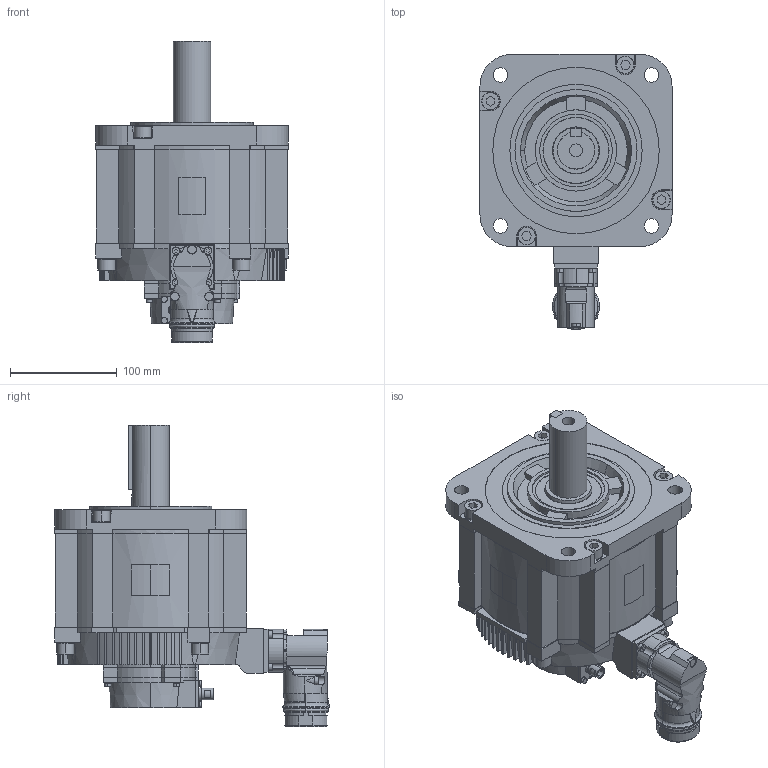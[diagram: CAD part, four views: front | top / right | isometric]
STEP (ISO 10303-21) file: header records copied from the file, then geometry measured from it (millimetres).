
FILE_DESCRIPTION (( 'STEP AP203' ), '1' );
FILE_NAME ('sgm7g_44d_r6f.STEP', '2017-06-13T02:59:55', ( '匠エンジニアリング山之内' ), ( 'TAKUMI-Engniaring' ), 'SwSTEP 2.0', 'SolidWorks 2006303', '' );
FILE_SCHEMA (( 'CONFIG_CONTROL_DESIGN' ));
Length unit declared in the file: millimetre
Products named in the file (4): sgm7g_44d_r6f; sgm7g_44d_r6f_base; sgm7g_44d_r6f_key; sgm7g_44d_r6f_connector
Assembly tree (3 placements, depth 2):
  sgm7g_44d_r6f
    sgm7g_44d_r6f_base
    sgm7g_44d_r6f_connector
    sgm7g_44d_r6f_key
Bounding box: 180 x 257.5 x 282 mm (x, y, z)
Volume: 4239570.3 mm3; surface area: 249098.9 mm2
Topology: 3 solids, 3 shells, 940 faces, 2479 edges, 1630 vertices
Faces by surface type: plane 573, cylinder 291, cone 63, bspline 8, torus 5
Entity records: 30501 total; most frequent: CARTESIAN_POINT 6421, DIRECTION 4967, ORIENTED_EDGE 4958, EDGE_CURVE 2479, AXIS2_PLACEMENT_3D 1725, VERTEX_POINT 1630, VECTOR 1517, LINE 1517
